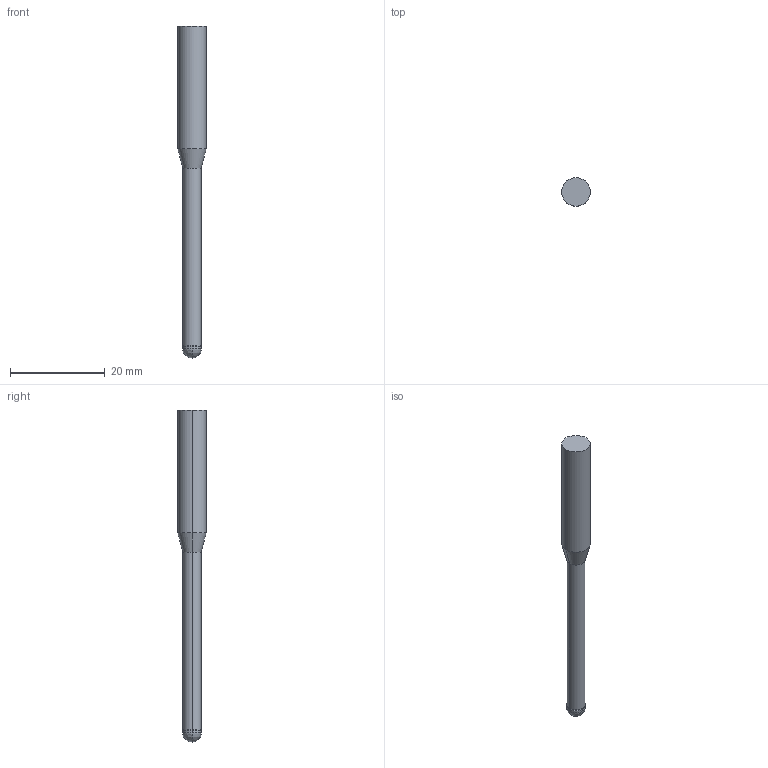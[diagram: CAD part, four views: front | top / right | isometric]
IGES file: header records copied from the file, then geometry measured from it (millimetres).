
Start section: 3D InterOp IGES (v. 2020 1.0.1), Spatial Corp. Copyright (c) 1999-2017.
Global section: file name: WZF289967_4_40.igs; native system: Spatial Corp.; preprocessor: 3D InterOp GENERIC/IGES 3.0; author: Noname; organization: Noname; date: 20201007.094601; units: metre
Bounding box: 6 x 6 x 69.99 mm (x, y, z)
Surface area: 1061.6 mm2 (no closed solid volume)
Topology: 0 solids, 0 shells, 18 faces, 76 edges, 72 vertices
Faces by surface type: revolution 16, extrusion 2
